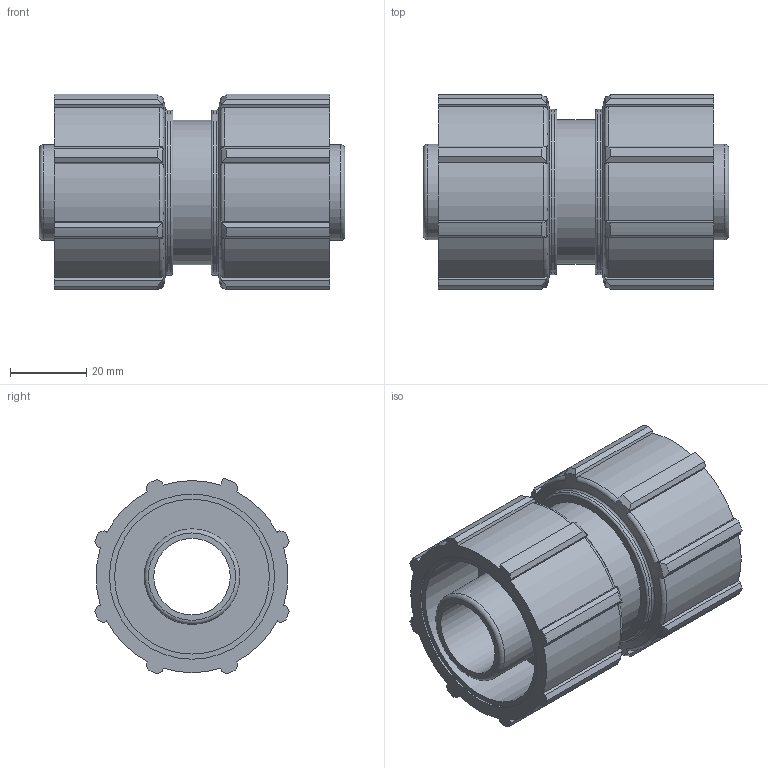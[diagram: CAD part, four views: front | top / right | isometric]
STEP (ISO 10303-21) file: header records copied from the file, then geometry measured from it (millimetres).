
FILE_DESCRIPTION(/* description */ ('PLASSON MODULAR ADAPTOR 25'),/* implementation_level */ '2;1');
FILE_NAME(/* name */ 'C:\Dropbox\KIMPROJECTS-Inventor\99-16-3568-Processing\Mechanical Fittings\07940\079400025__0794060250A.ipt.stp',/* time_stamp */ '2018-07-31T14:20:39+03:00',/* author */ ('KIM'),/* organization */ (''),/* preprocessor_version */ 'ST-DEVELOPER v15.6',/* originating_system */ 'Autodesk Inventor 2015',/* authorisation */ '');
FILE_SCHEMA (('AUTOMOTIVE_DESIGN { 1 0 10303 214 3 1 1 }'));
Length unit declared in the file: millimetre
Products named in the file (1): 079400025__0794060250A
Bounding box: 80 x 50.81 x 51.16 mm (x, y, z)
Volume: 81720.3 mm3; surface area: 30894.9 mm2
Topology: 1 solids, 1 shells, 154 faces, 424 edges, 280 vertices
Faces by surface type: plane 72, cylinder 42, torus 22, cone 18
Full cylindrical faces by diameter (mm): 20 x1, 25 x2, 37.8 x1, 40.5 x2, 43.2 x4
Entity records: 4850 total; most frequent: CARTESIAN_POINT 983, ORIENTED_EDGE 808, DIRECTION 808, EDGE_CURVE 404, AXIS2_PLACEMENT_3D 309, VERTEX_POINT 278, LINE 190, VECTOR 190
